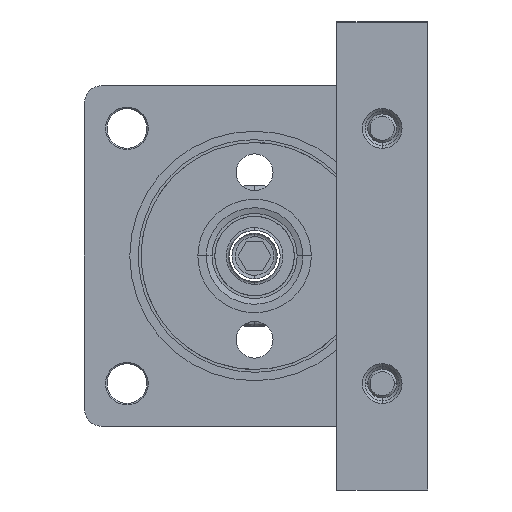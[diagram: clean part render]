
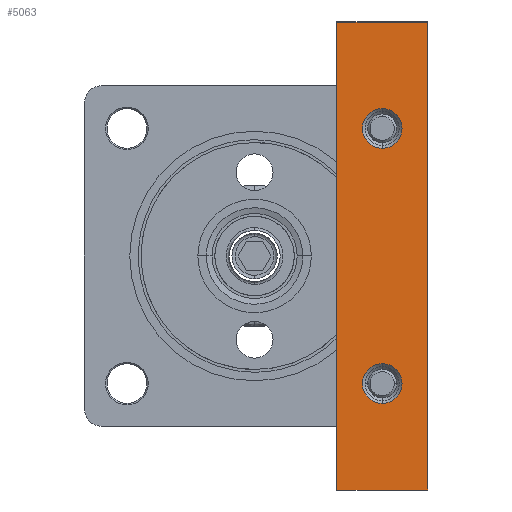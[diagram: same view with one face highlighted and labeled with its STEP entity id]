
A CAD part, left-side view. The second image highlights one B-rep face of the part: STEP entity #5063.
In plain terms, the highlighted planar face has unit normal (-1, 0, 0).
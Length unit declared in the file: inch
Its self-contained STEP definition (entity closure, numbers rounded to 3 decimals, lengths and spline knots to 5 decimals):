
#154 = ORIENTED_EDGE ( 'NONE', *, *, #6766, .T. ) ;
#153 = AXIS2_PLACEMENT_3D ( 'NONE', #2761, #6738, #8813 ) ;
#306 = VERTEX_POINT ( 'NONE', #13524 ) ;
#310 = CARTESIAN_POINT ( 'NONE',  ( -2.1063, -1.14173, 3.24803 ) ) ;
#354 = CIRCLE ( 'NONE', #1773, 0.27559 ) ;
#375 = EDGE_LOOP ( 'NONE', ( #8394, #8999 ) ) ;
#412 = VECTOR ( 'NONE', #9749, 39.37008 ) ;
#447 = LINE ( 'NONE', #9861, #412 ) ;
#482 = DIRECTION ( 'NONE',  ( 0., 1., 0. ) ) ;
#1058 = EDGE_LOOP ( 'NONE', ( #8668, #154, #2862, #1984 ) ) ;
#1459 = CARTESIAN_POINT ( 'NONE',  ( -2.1063, -1.14173, 3.24803 ) ) ;
#1688 = DIRECTION ( 'NONE',  ( 0., 0., -1. ) ) ;
#1714 = DIRECTION ( 'NONE',  ( 0., 0., 1. ) ) ;
#1718 = CARTESIAN_POINT ( 'NONE',  ( -2.1063, -1.77165, -1.77165 ) ) ;
#1726 = DIRECTION ( 'NONE',  ( -1., 0., 0. ) ) ;
#1773 = AXIS2_PLACEMENT_3D ( 'NONE', #2523, #2507, #2495 ) ;
#1961 = VECTOR ( 'NONE', #12230, 39.37008 ) ;
#1984 = ORIENTED_EDGE ( 'NONE', *, *, #8169, .T. ) ;
#1996 = CARTESIAN_POINT ( 'NONE',  ( -2.1063, -1.77165, 2.04724 ) ) ;
#2048 = LINE ( 'NONE', #8889, #1961 ) ;
#2058 = CARTESIAN_POINT ( 'NONE',  ( -2.1063, -1.77165, -2.04724 ) ) ;
#2454 = EDGE_CURVE ( 'NONE', #4588, #7811, #11487, .T. ) ;
#2495 = DIRECTION ( 'NONE',  ( 0., 0., 1. ) ) ;
#2507 = DIRECTION ( 'NONE',  ( -1., 0., 0. ) ) ;
#2523 = CARTESIAN_POINT ( 'NONE',  ( -2.1063, -1.77165, 1.77165 ) ) ;
#2761 = CARTESIAN_POINT ( 'NONE',  ( -2.1063, -1.77165, 1.77165 ) ) ;
#2862 = ORIENTED_EDGE ( 'NONE', *, *, #7278, .T. ) ;
#3266 = CARTESIAN_POINT ( 'NONE',  ( -2.1063, -2.40157, 3.24803 ) ) ;
#3369 = PLANE ( 'NONE',  #12101 ) ;
#3608 = LINE ( 'NONE', #1459, #3657 ) ;
#3657 = VECTOR ( 'NONE', #1688, 39.37008 ) ;
#4053 = CIRCLE ( 'NONE', #153, 0.27559 ) ;
#4472 = CARTESIAN_POINT ( 'NONE',  ( -2.1063, -1.77165, -1.49606 ) ) ;
#4588 = VERTEX_POINT ( 'NONE', #2058 ) ;
#4601 = VERTEX_POINT ( 'NONE', #1996 ) ;
#5063 = ADVANCED_FACE ( 'NONE', ( #6186, #6278, #6212 ), #3369, .F. ) ;
#5202 = ORIENTED_EDGE ( 'NONE', *, *, #7862, .F. ) ;
#5859 = CARTESIAN_POINT ( 'NONE',  ( -2.1063, -2.40157, 3.24803 ) ) ;
#5918 = CARTESIAN_POINT ( 'NONE',  ( -2.1063, -1.14173, 3.24803 ) ) ;
#6186 = FACE_OUTER_BOUND ( 'NONE', #1058, .T. ) ;
#6189 = EDGE_CURVE ( 'NONE', #10033, #11739, #3608, .T. ) ;
#6212 = FACE_BOUND ( 'NONE', #375, .T. ) ;
#6278 = FACE_BOUND ( 'NONE', #7873, .T. ) ;
#6692 = DIRECTION ( 'NONE',  ( 0., 0., -1. ) ) ;
#6738 = DIRECTION ( 'NONE',  ( -1., 0., 0. ) ) ;
#6766 = EDGE_CURVE ( 'NONE', #11739, #306, #2048, .T. ) ;
#7114 = DIRECTION ( 'NONE',  ( 1., 0., 0. ) ) ;
#7278 = EDGE_CURVE ( 'NONE', #306, #7575, #447, .T. ) ;
#7575 = VERTEX_POINT ( 'NONE', #5859 ) ;
#7811 = VERTEX_POINT ( 'NONE', #4472 ) ;
#7862 = EDGE_CURVE ( 'NONE', #11903, #4601, #354, .T. ) ;
#7873 = EDGE_LOOP ( 'NONE', ( #9643, #5202 ) ) ;
#8147 = LINE ( 'NONE', #310, #13600 ) ;
#8169 = EDGE_CURVE ( 'NONE', #7575, #10033, #8147, .T. ) ;
#8394 = ORIENTED_EDGE ( 'NONE', *, *, #8586, .F. ) ;
#8438 = EDGE_CURVE ( 'NONE', #4601, #11903, #4053, .T. ) ;
#8586 = EDGE_CURVE ( 'NONE', #7811, #4588, #8789, .T. ) ;
#8668 = ORIENTED_EDGE ( 'NONE', *, *, #6189, .T. ) ;
#8789 = CIRCLE ( 'NONE', #10925, 0.27559 ) ;
#8813 = DIRECTION ( 'NONE',  ( 0., 0., 1. ) ) ;
#8889 = CARTESIAN_POINT ( 'NONE',  ( -2.1063, -1.14173, -3.24803 ) ) ;
#8999 = ORIENTED_EDGE ( 'NONE', *, *, #2454, .F. ) ;
#9611 = CARTESIAN_POINT ( 'NONE',  ( -2.1063, -1.77165, 1.49606 ) ) ;
#9643 = ORIENTED_EDGE ( 'NONE', *, *, #8438, .F. ) ;
#9749 = DIRECTION ( 'NONE',  ( 0., 0., 1. ) ) ;
#9861 = CARTESIAN_POINT ( 'NONE',  ( -2.1063, -2.40157, 3.24803 ) ) ;
#10033 = VERTEX_POINT ( 'NONE', #5918 ) ;
#10099 = CARTESIAN_POINT ( 'NONE',  ( -2.1063, -1.14173, -3.24803 ) ) ;
#10925 = AXIS2_PLACEMENT_3D ( 'NONE', #13035, #13001, #12996 ) ;
#11487 = CIRCLE ( 'NONE', #11504, 0.27559 ) ;
#11504 = AXIS2_PLACEMENT_3D ( 'NONE', #1718, #1726, #1714 ) ;
#11739 = VERTEX_POINT ( 'NONE', #10099 ) ;
#11903 = VERTEX_POINT ( 'NONE', #9611 ) ;
#12101 = AXIS2_PLACEMENT_3D ( 'NONE', #3266, #7114, #6692 ) ;
#12230 = DIRECTION ( 'NONE',  ( 0., -1., 0. ) ) ;
#12996 = DIRECTION ( 'NONE',  ( 0., 0., 1. ) ) ;
#13001 = DIRECTION ( 'NONE',  ( -1., 0., 0. ) ) ;
#13035 = CARTESIAN_POINT ( 'NONE',  ( -2.1063, -1.77165, -1.77165 ) ) ;
#13524 = CARTESIAN_POINT ( 'NONE',  ( -2.1063, -2.40157, -3.24803 ) ) ;
#13600 = VECTOR ( 'NONE', #482, 39.37008 ) ;
